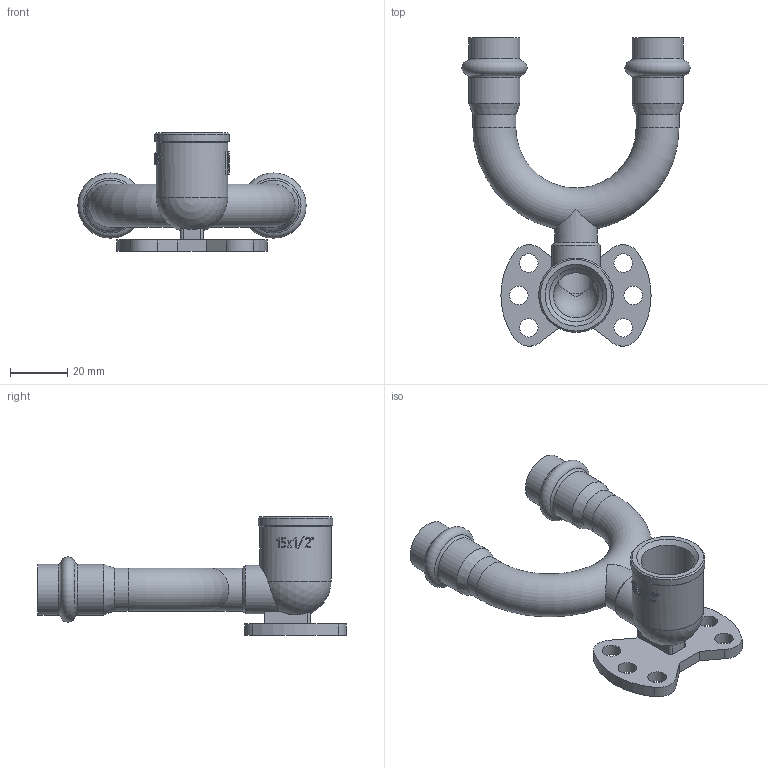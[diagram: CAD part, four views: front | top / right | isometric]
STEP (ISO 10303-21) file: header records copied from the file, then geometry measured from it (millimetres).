
FILE_DESCRIPTION(('STEP AP203'), '1');
FILE_NAME('VTi.954.DI.150415', '', ('UNSPECIFIED'), ('UNSPECIFIED'), 'C3D Converter', 'C3D Toolkit', '');
FILE_SCHEMA(('CONFIG_CONTROL_DESIGN'));
Length unit declared in the file: millimetre
Bounding box: 79.79 x 107.73 x 41.5 mm (x, y, z)
Volume: 23796.9 mm3; surface area: 25037 mm2
Topology: 1 solids, 1 shells, 251 faces, 683 edges, 445 vertices
Faces by surface type: extrusion 100, plane 78, cylinder 45, torus 16, cone 9, sphere 3
Full cylindrical faces by diameter (mm): 6.5 x6, 12.5 x3, 15 x3, 15.3 x4, 15.8 x1, 17 x1, 17.8 x4, 18.632 x1, 25 x1, 26 x1
Entity records: 10587 total; most frequent: CARTESIAN_POINT 4935, ORIENTED_EDGE 1264, DIRECTION 855, EDGE_CURVE 632, VERTEX_POINT 445, EDGE_LOOP 329, VECTOR 329, B_SPLINE_CURVE_WITH_KNOTS 320
